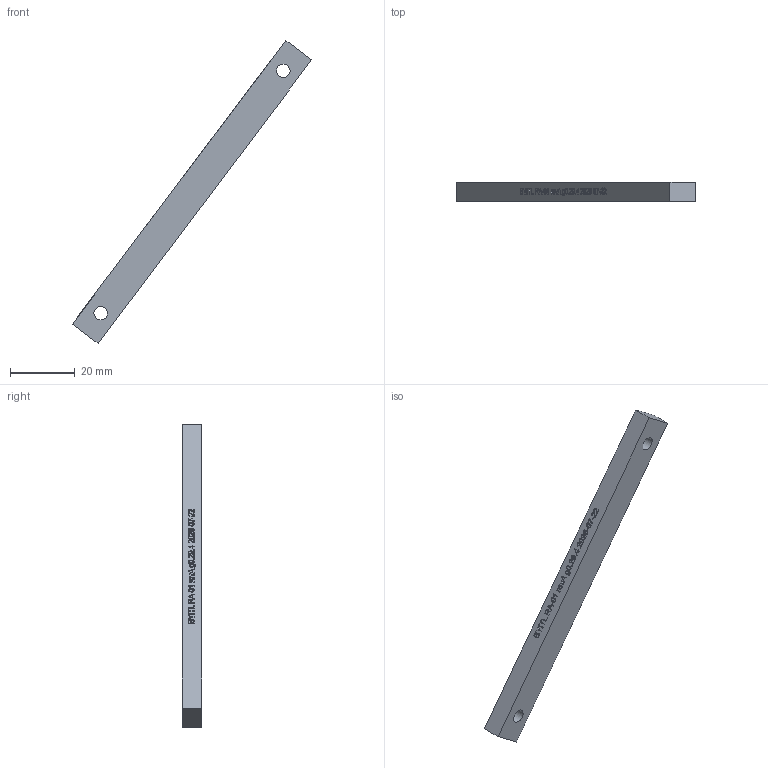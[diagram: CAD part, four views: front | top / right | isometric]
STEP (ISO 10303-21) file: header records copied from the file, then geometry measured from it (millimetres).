
FILE_DESCRIPTION(('Open CASCADE Model'),'2;1');
FILE_NAME('Open CASCADE Shape Model','2026-07-25T17:39:14',('Author'),( 'Open CASCADE'),'Open CASCADE STEP processor 7.9','build123d', 'Unknown');
FILE_SCHEMA(('AUTOMOTIVE_DESIGN { 1 0 10303 214 1 1 1 1 }'));
Length unit declared in the file: millimetre
Products named in the file (2): =>[0:1:1:2]; COMPOUND
Assembly tree (1 placements, depth 2):
  =>[0:1:1:2]
    COMPOUND
Bounding box: 74.19 x 6 x 93.86 mm (x, y, z)
Volume: 6426.7 mm3; surface area: 3809.3 mm2
Topology: 1 solids, 1 shells, 541 faces, 1482 edges, 988 vertices
Faces by surface type: extrusion 333, plane 206, cylinder 2
Full cylindrical faces by diameter (mm): 4.2 x2
Entity records: 41388 total; most frequent: CARTESIAN_POINT 15245, DIRECTION 3224, ORIENTED_EDGE 2964, PCURVE 2964, DEFINITIONAL_REPRESENTATION 2964, VECTOR 2796, LINE 2463, B_SPLINE_CURVE_WITH_KNOTS 2308
